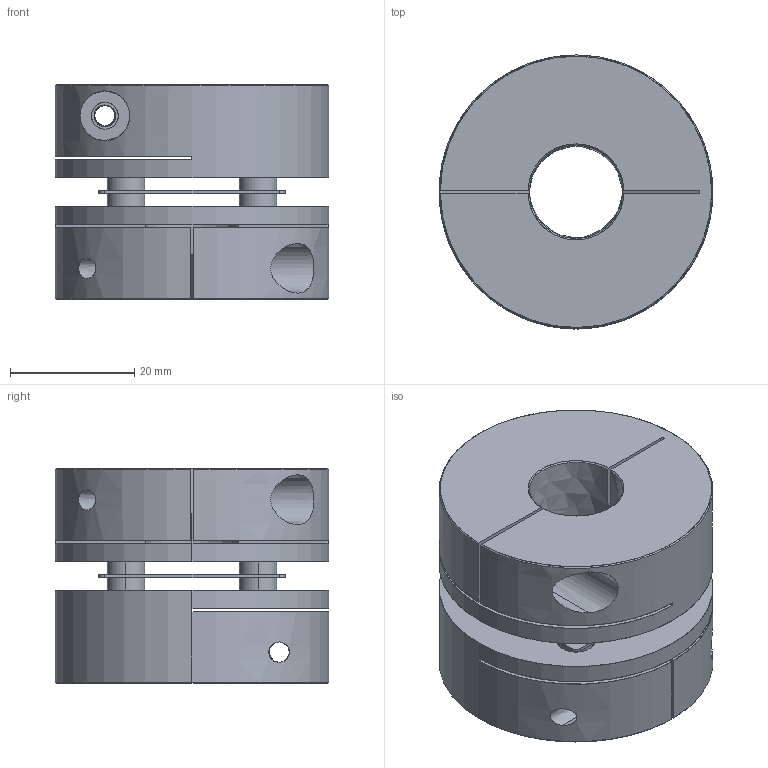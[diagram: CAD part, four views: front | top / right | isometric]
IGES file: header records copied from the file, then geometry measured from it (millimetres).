
Start section: SolidWorks IGES file using analytic representation for surfaces
Bounding box: 44 x 44 x 34.5 mm (x, y, z)
Surface area: 16558.2 mm2 (no closed solid volume)
Topology: 0 solids, 0 shells, 91 faces, 2081 edges, 2081 vertices
Faces by surface type: revolution 59, bspline 32
